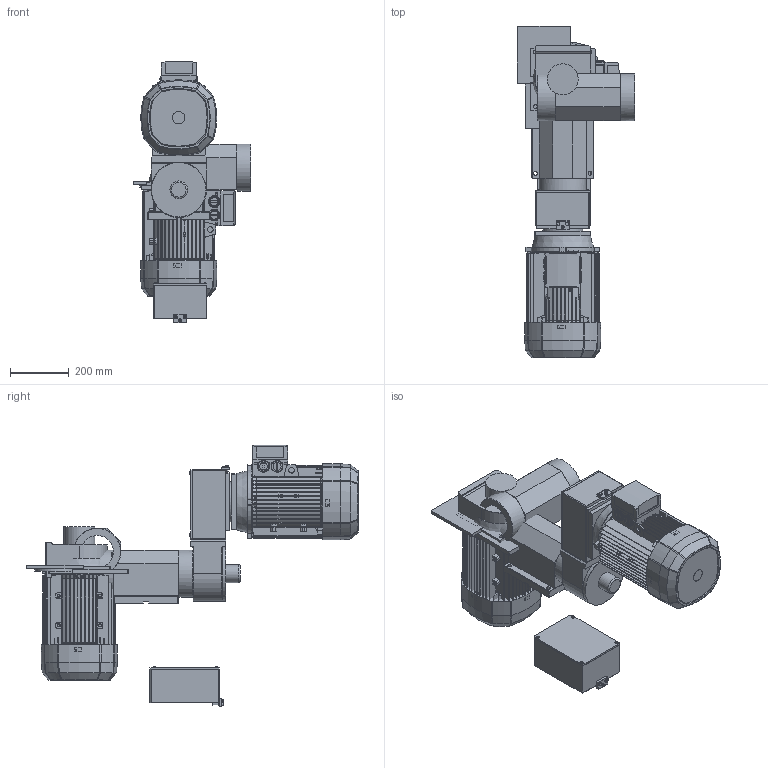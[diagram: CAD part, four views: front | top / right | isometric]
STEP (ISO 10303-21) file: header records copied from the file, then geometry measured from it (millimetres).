
FILE_DESCRIPTION( ( 'STEP AP203' ), '1' );
FILE_NAME( 'C:/Documents and Settings/Saverio/Desktop/disegni ironcad/UNITA'/MANDRINI FISSI/MF50/MF 50_P.stp', '2014-03-31T10:25:53', ( ' ' ), ( ' ' ), 'XStep 1.0', ' ', ' ' );
FILE_SCHEMA( ( 'CONFIG_CONTROL_DESIGN' ) );
Length unit declared in the file: metre
Products named in the file (36): Assem1; Assem2; 1; 2; 3; 4; 5; 6; 7; 8; 9; 10; 11; 12; 13; 14; 15; 16; 17; 18; 19; 20; 21; 22; 23; 24; 25; 26; 27; 28; 29; 30; 31; 32; 33; 34
Bounding box: 400 x 1126.06 x 888.56 mm (x, y, z)
Volume: 91995751.1 mm3; surface area: 6617352.1 mm2
Topology: 79 solids, 79 shells, 5115 faces, 12940 edges, 8169 vertices
Faces by surface type: plane 2192, cylinder 1192, cone 894, torus 403, bspline 356, sphere 78
Full cylindrical faces by diameter (mm): 2.6 x12, 3.1 x12, 4 x12, 4.351 x15, 6 x14, 6.5 x2, 8.985 x12, 9 x12, 9.5 x12, 9.87 x2, 10 x4, 10.2 x3, 11 x4, 13 x11, 16 x4, 16.6 x4, 19 x6, 27 x12, 31.2 x12, 32 x12, 37 x12, 37.4 x3, 38 x3, 40 x17, 41.5 x3, 42 x6, 52 x3, 60 x5, 76 x3, 90 x3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
Entity records: 60722 total; most frequent: CARTESIAN_POINT 17975, ORIENTED_EDGE 8632, DIRECTION 8149, EDGE_CURVE 4316, AXIS2_PLACEMENT_3D 3168, VERTEX_POINT 2823, EDGE_LOOP 2154, FACE_OUTER_BOUND 1965
